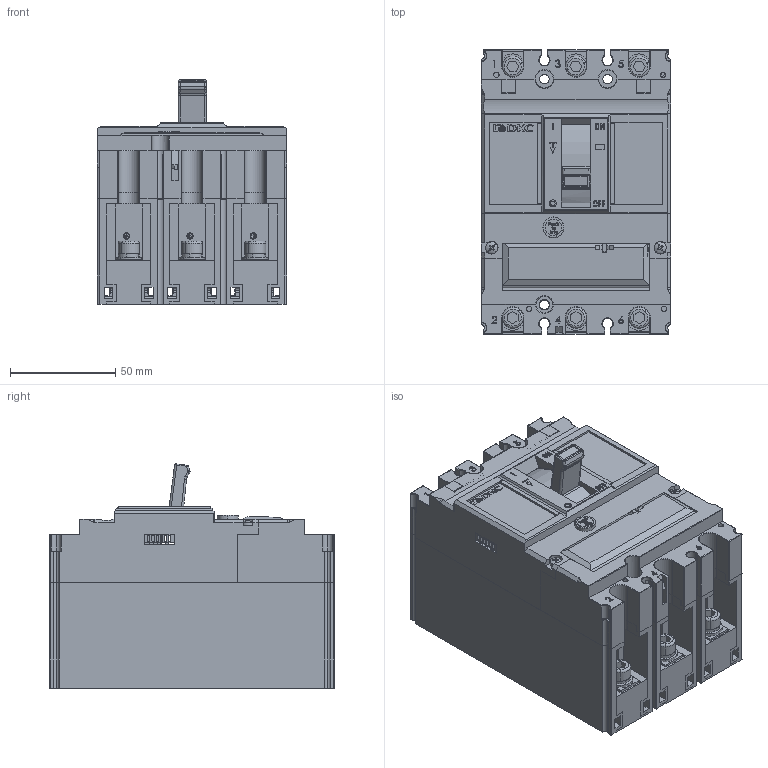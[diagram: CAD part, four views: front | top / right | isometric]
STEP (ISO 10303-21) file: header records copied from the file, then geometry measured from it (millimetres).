
FILE_DESCRIPTION (( 'STEP AP214' ), '1' );
FILE_NAME ('MNX125_160L_M_H_3P ﾈﾇﾌ.STEP', '2024-12-04T10:50:18', ( '' ), ( '' ), 'SwSTEP 2.0', 'SolidWorks 2022', '' );
FILE_SCHEMA (( 'AUTOMOTIVE_DESIGN' ));
Length unit declared in the file: millimetre
Products named in the file (1): MNX125_160L_M_H_3P ИЗМ
Bounding box: 90 x 135 x 106.37 mm (x, y, z)
Volume: 225386.3 mm3; surface area: 239466.1 mm2
Topology: 65 solids, 67 shells, 5402 faces, 15386 edges, 10266 vertices
Faces by surface type: plane 3413, cylinder 1337, bspline 367, torus 148, cone 97, sphere 40
Entity records: 270600 total; most frequent: CARTESIAN_POINT 71426, ORIENTED_EDGE 30670, DIRECTION 26841, EDGE_CURVE 15335, LINE 10745, VECTOR 10745, VERTEX_POINT 10266, AXIS2_PLACEMENT_3D 8048
